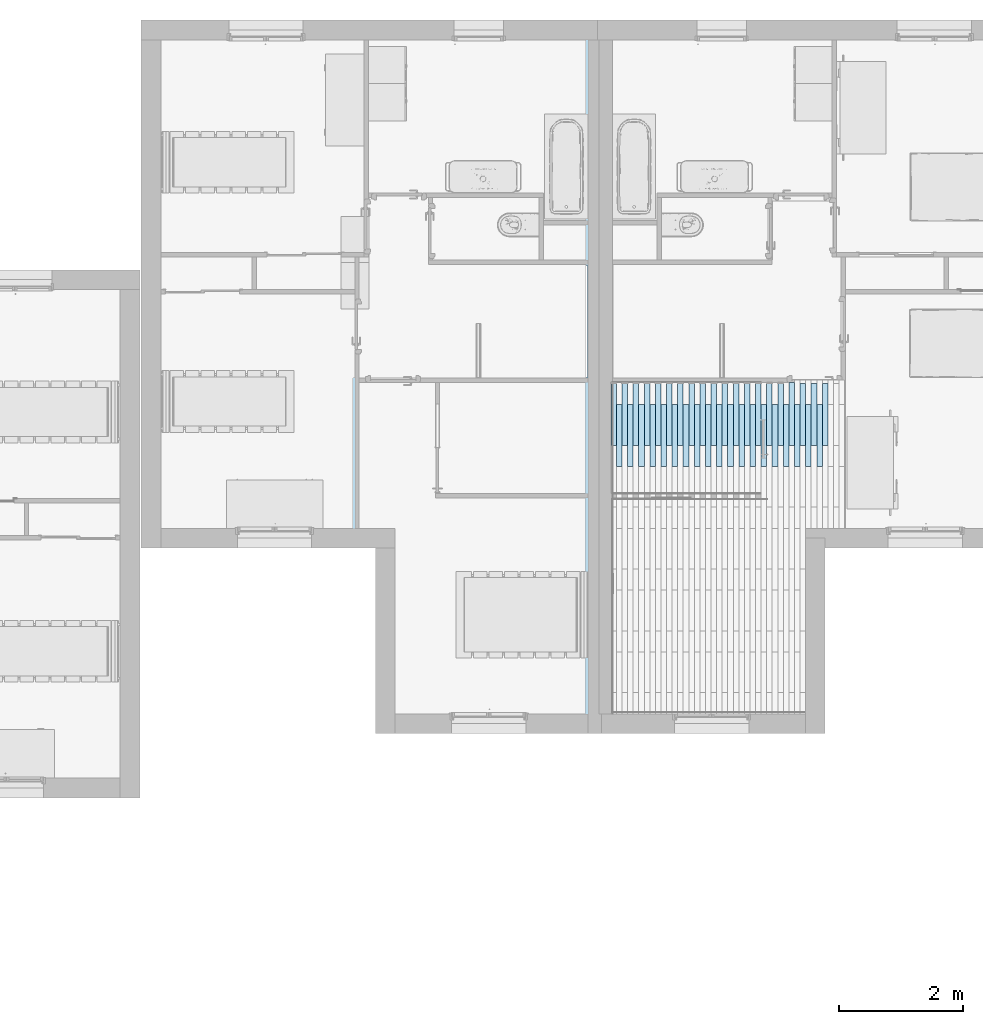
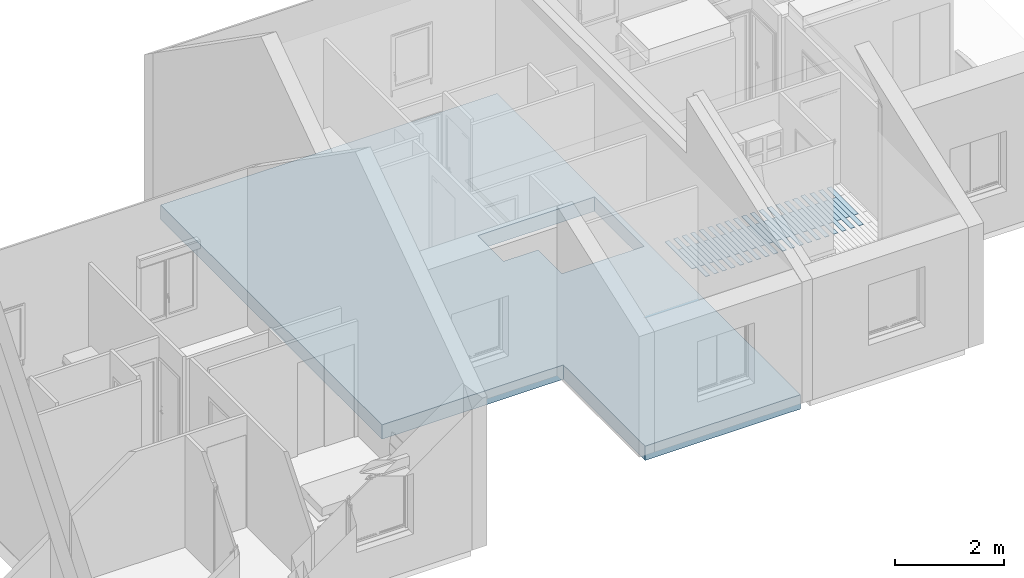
# One storey, part 4 of 61: 40 slabs, 1 opening.
"""IFC2X3 building model written with IfcOpenShell, lengths in metres."""

import ifcopenshell
import ifcopenshell.guid

model = None  # the IFC model being written
_history = None  # IfcOwnerHistory: only IFC2X3 demands one
_inside = {}  # id of a spatial element -> (the spatial element, [elements in it])
_under = {}  # id of a project, library or spatial element -> (it, [spatial elements below it])
_declared = {}  # id of a project -> (the project, [libraries it declares])
_typed = {}  # id of a type object -> (the type object, [elements of that type])
_made_of = {}  # id of a material, layer set ... -> (it, [elements and type objects made of it])


def new_model(schema):
    """Start an empty IFC model of exactly this schema.

    Asked for "IFC4X3", IfcOpenShell would pick the latest addendum, in which some entities
    have other attributes; the version numbers below select the first issue.
    IFC2X3 requires an IfcOwnerHistory on every rooted entity: one is made here for all.
    """
    global model, _history
    if schema == "IFC4X3":
        model = ifcopenshell.file(schema_version=(4, 3, 0, 0))
    else:
        model = ifcopenshell.file(schema=schema)
    _inside.clear()
    _under.clear()
    _declared.clear()
    _typed.clear()
    _made_of.clear()
    _history = None
    if model.schema == "IFC2X3":
        org = make("IfcOrganization", Name="unknown")
        user = make(
            "IfcPersonAndOrganization",
            ThePerson=make("IfcPerson", FamilyName="unknown"),
            TheOrganization=org,
        )
        app = make(
            "IfcApplication",
            ApplicationDeveloper=org,
            Version="unknown",
            ApplicationFullName="unknown",
            ApplicationIdentifier="unknown",
        )
        _history = make(
            "IfcOwnerHistory",
            OwningUser=user,
            OwningApplication=app,
            ChangeAction="ADDED",
            CreationDate=0,
        )
    return model


def make(cls, **values):
    """One entity of the class cls with the attributes given. An attribute that is None is left unset."""
    return model.create_entity(
        cls, **{name: value for name, value in values.items() if value is not None}
    )


def entity(cls, *values):
    """Any entity or typed value of the class cls, its attributes in the order of the schema. None: left unset."""
    e = model.create_entity(cls)
    for i, value in enumerate(values):
        if value is not None:
            e[i] = value
    return e


def rooted(cls, **values):
    """An entity with a GlobalId (a new one), such as an element, a storey or a relation."""
    return make(cls, GlobalId=ifcopenshell.guid.new(), OwnerHistory=_history, **values)


def si_unit(unit_type, name, prefix=None):
    """IfcSIUnit, for example si_unit("LENGTHUNIT", "METRE", prefix="MILLI")."""
    return make("IfcSIUnit", UnitType=unit_type, Prefix=prefix, Name=name)


def converted_unit(unit_type, name, factor, base, dimensions=None, offset=None):
    """IfcConversionBasedUnit, such as the inch: factor (a typed value) times the base unit."""
    return make(
        "IfcConversionBasedUnit"
        if offset is None
        else "IfcConversionBasedUnitWithOffset",
        ConversionOffset=offset,
        Dimensions=None
        if dimensions is None
        else entity("IfcDimensionalExponents", *dimensions),
        UnitType=unit_type,
        Name=name,
        ConversionFactor=make(
            "IfcMeasureWithUnit", ValueComponent=factor, UnitComponent=base
        ),
    )


def derived_unit(unit_type, elements):
    """IfcDerivedUnit: a product of units, each with its exponent."""
    return make(
        "IfcDerivedUnit",
        Elements=[
            make("IfcDerivedUnitElement", Unit=unit, Exponent=power)
            for unit, power in elements
        ],
        UnitType=unit_type,
    )


def assignment(units):
    """IfcUnitAssignment: the units of a project."""
    return None if units is None else make("IfcUnitAssignment", Units=units)


def point(xyz):
    """IfcCartesianPoint."""
    return None if xyz is None else make("IfcCartesianPoint", Coordinates=xyz)


def direction(xyz):
    """IfcDirection."""
    return None if xyz is None else make("IfcDirection", DirectionRatios=xyz)


def frame(location, z_axis=None, x_axis=None):
    """IfcAxis2Placement3D, a coordinate frame: its origin and axes. An axis left out is left unset."""
    return make(
        "IfcAxis2Placement3D",
        Location=point(location),
        Axis=direction(z_axis),
        RefDirection=direction(x_axis),
    )


def frame_2d(location, x_axis=None):
    """IfcAxis2Placement2D, a coordinate frame in the plane: its origin and x axis."""
    return make(
        "IfcAxis2Placement2D", Location=point(location), RefDirection=direction(x_axis)
    )


def origin():
    """The frame at (0, 0, 0) with its axes left unset."""
    return frame((0.0, 0.0, 0.0))


def place(relative_to, where):
    """IfcLocalPlacement: puts the frame where relative to a parent placement (None: the world)."""
    return make(
        "IfcLocalPlacement", PlacementRelTo=relative_to, RelativePlacement=where
    )


def context(
    kind, dimensions, precision=None, world=None, true_north=None, identifier=None
):
    """IfcGeometricRepresentationContext, for example the 3D "Model" context."""
    return make(
        "IfcGeometricRepresentationContext",
        ContextIdentifier=identifier,
        ContextType=kind,
        CoordinateSpaceDimension=dimensions,
        Precision=precision,
        WorldCoordinateSystem=world,
        TrueNorth=true_north,
    )


def subcontext(parent, identifier, kind, view, scale=None):
    """IfcGeometricRepresentationSubContext, for example "Body" below "Model"."""
    return make(
        "IfcGeometricRepresentationSubContext",
        ContextIdentifier=identifier,
        ContextType=kind,
        ParentContext=parent,
        TargetScale=scale,
        TargetView=view,
    )


def project(units=None, contexts=None):
    """IfcProject with its units and contexts."""
    return rooted(
        "IfcProject",
        Name="project",
        RepresentationContexts=contexts,
        UnitsInContext=assignment(units),
    )


def spatial(cls, under=None, at=None, **own):
    """A site, building, storey or space (cls), placed at a placement, below another one or the project."""
    s = rooted(cls, ObjectPlacement=at, **own)
    if under is not None:
        _under.setdefault(under.id(), (under, []))[1].append(s)
    return s


def polyline(points):
    """IfcPolyline through the points."""
    return make("IfcPolyline", Points=[point(p) for p in points])


def profile(cls, at=None, kind="AREA", **sizes):
    """A parametric profile (cls). Its sizes go by their IFC names, for example OverallWidth=200.0."""
    return make(cls, ProfileType=kind, Position=at, **sizes)


def rectangle(**sizes):
    """IfcRectangleProfileDef."""
    return profile("IfcRectangleProfileDef", **sizes)


def outline(outer, holes=None, kind="AREA"):
    """IfcArbitraryClosedProfileDef: a profile drawn as a closed curve; with holes, ...WithVoids."""
    if holes is None:
        return make("IfcArbitraryClosedProfileDef", ProfileType=kind, OuterCurve=outer)
    return make(
        "IfcArbitraryProfileDefWithVoids",
        ProfileType=kind,
        OuterCurve=outer,
        InnerCurves=holes,
    )


def extrude(swept, where, along, depth):
    """IfcExtrudedAreaSolid: the profile swept, set in the frame where, extruded along a direction by depth."""
    return make(
        "IfcExtrudedAreaSolid",
        SweptArea=swept,
        Position=where,
        ExtrudedDirection=direction(along),
        Depth=depth,
    )


def shape(context_of_items, identifier, shape_type, items):
    """IfcShapeRepresentation: the items that make up one representation, for example the "Body"."""
    return make(
        "IfcShapeRepresentation",
        ContextOfItems=context_of_items,
        RepresentationIdentifier=identifier,
        RepresentationType=shape_type,
        Items=items,
    )


def material(Name=None, Category=None):
    """IfcMaterial."""
    return make("IfcMaterial", Name=Name, Category=Category)


def layer(
    of_material, thickness, ventilated=None, Name=None, Category=None, Priority=None
):
    """IfcMaterialLayer: one layer of a wall or slab, of a material (None: an air gap)."""
    return make(
        "IfcMaterialLayer",
        Material=of_material,
        LayerThickness=thickness,
        IsVentilated=ventilated,
        Name=Name,
        Category=Category,
        Priority=Priority,
    )


def layer_set(layers, Name=None):
    """IfcMaterialLayerSet."""
    return make("IfcMaterialLayerSet", MaterialLayers=layers, LayerSetName=Name)


def layer_usage(for_layer_set, set_direction, sense, offset, extent=None):
    """IfcMaterialLayerSetUsage: how a layer set lies in its element."""
    return make(
        "IfcMaterialLayerSetUsage",
        ForLayerSet=for_layer_set,
        LayerSetDirection=set_direction,
        DirectionSense=sense,
        OffsetFromReferenceLine=offset,
        ReferenceExtent=extent,
    )


def made_of(thing, what):
    """Note that an element or type object is made of a material, layer set ...; save() writes the relation."""
    if what is not None:
        _made_of.setdefault(what.id(), (what, []))[1].append(thing)
    return thing


def type_object(cls, material=None, **own):
    """A type object (cls), such as IfcWallType, which elements share."""
    return made_of(rooted(cls, **own), material)


def element(
    cls,
    number,
    at=None,
    inside=None,
    cuts=None,
    type_object=None,
    material=None,
    context=None,
    identifier="Body",
    shape_type=None,
    held_by="IfcProductDefinitionShape",
    body=None,
    shapes=None,
    **own,
):
    """One element of the class cls, such as IfcWall. Its Tag is "e" and its number.

    at: its placement. inside: the storey or other place that contains it. cuts: it is an
    opening in that element (IfcRelVoidsElement). A single representation is given by context,
    identifier, shape_type and body (its items); several are given by shapes. held_by: the class
    of the entity that holds the representations. save() writes the other relations.
    """
    e = rooted(cls, Tag="e%d" % number, ObjectPlacement=at, **own)
    if body is not None:
        shapes = [shape(context, identifier, shape_type, body)]
    if shapes is not None:
        e.Representation = make(held_by, Representations=shapes)
    if inside is not None:
        _inside.setdefault(inside.id(), (inside, []))[1].append(e)
    if cuts is not None:
        rooted(
            "IfcRelVoidsElement", RelatingBuildingElement=cuts, RelatedOpeningElement=e
        )
    if type_object is not None:
        _typed.setdefault(type_object.id(), (type_object, []))[1].append(e)
    return made_of(e, material)


def aggregate(whole, parts):
    """IfcRelAggregates: a whole, such as a stair, and the parts it consists of."""
    return rooted("IfcRelAggregates", RelatingObject=whole, RelatedObjects=parts)


def save(model, path):
    """Write the relations noted so far, then the file.

    IfcRelAggregates (storeys below a building ...), IfcRelContainedInSpatialStructure (elements
    in a storey), IfcRelDefinesByType, IfcRelAssociatesMaterial and IfcRelDeclares: one each for
    every whole, place, type object, material and project.
    """
    for whole, parts in _under.values():
        aggregate(whole, parts)
    for where, things in _inside.values():
        rooted(
            "IfcRelContainedInSpatialStructure",
            RelatedElements=things,
            RelatingStructure=where,
        )
    for kind, things in _typed.values():
        rooted("IfcRelDefinesByType", RelatedObjects=things, RelatingType=kind)
    for what, things in _made_of.values():
        rooted("IfcRelAssociatesMaterial", RelatedObjects=things, RelatingMaterial=what)
    for by, libraries in _declared.values():
        rooted("IfcRelDeclares", RelatingContext=by, RelatedDefinitions=libraries)
    model.write(path)


model = new_model("IFC2X3")

# Units and contexts
model_context = context("Model", 3, precision=1e-05, world=origin(), true_north=direction((6.12303176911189e-17, 1.0)))
body_context = subcontext(model_context, "Body", "Model", "MODEL_VIEW")
ifc_project = project(units=[si_unit("LENGTHUNIT", "METRE"), si_unit("AREAUNIT", "SQUARE_METRE"), si_unit("VOLUMEUNIT", "CUBIC_METRE"), converted_unit("PLANEANGLEUNIT", "DEGREE", entity("IfcRatioMeasure", 0.0174532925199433), si_unit("PLANEANGLEUNIT", "RADIAN"), dimensions=[0, 0, 0, 0, 0, 0, 0]), si_unit("MASSUNIT", "GRAM", prefix="KILO"), derived_unit("MASSDENSITYUNIT", [(si_unit("MASSUNIT", "GRAM", prefix="KILO"), 1), (si_unit("LENGTHUNIT", "METRE"), -3)]), si_unit("TIMEUNIT", "SECOND"), si_unit("FREQUENCYUNIT", "HERTZ"), si_unit("THERMODYNAMICTEMPERATUREUNIT", "DEGREE_CELSIUS"), derived_unit("THERMALTRANSMITTANCEUNIT", [(si_unit("MASSUNIT", "GRAM", prefix="KILO"), 1), (si_unit("THERMODYNAMICTEMPERATUREUNIT", "KELVIN"), -1), (si_unit("TIMEUNIT", "SECOND"), -3)]), derived_unit("VOLUMETRICFLOWRATEUNIT", [(si_unit("LENGTHUNIT", "METRE"), 3), (si_unit("TIMEUNIT", "SECOND"), -1)]), si_unit("ELECTRICCURRENTUNIT", "AMPERE"), si_unit("ELECTRICVOLTAGEUNIT", "VOLT"), si_unit("POWERUNIT", "WATT"), si_unit("FORCEUNIT", "NEWTON", prefix="KILO"), si_unit("ILLUMINANCEUNIT", "LUX"), si_unit("LUMINOUSFLUXUNIT", "LUMEN"), si_unit("LUMINOUSINTENSITYUNIT", "CANDELA"), derived_unit("USERDEFINED", [(si_unit("MASSUNIT", "GRAM", prefix="KILO"), -1), (si_unit("LENGTHUNIT", "METRE"), -2), (si_unit("TIMEUNIT", "SECOND"), 3), (si_unit("LUMINOUSFLUXUNIT", "LUMEN"), 1)]), derived_unit("LINEARVELOCITYUNIT", [(si_unit("LENGTHUNIT", "METRE"), 1), (si_unit("TIMEUNIT", "SECOND"), -1)]), si_unit("PRESSUREUNIT", "PASCAL"), derived_unit("USERDEFINED", [(si_unit("LENGTHUNIT", "METRE"), -2), (si_unit("MASSUNIT", "GRAM", prefix="KILO"), 1), (si_unit("TIMEUNIT", "SECOND"), -2)])], contexts=[model_context])

# Site, building, storey
site_placement = place(None, origin())
site = spatial("IfcSite", under=ifc_project, at=site_placement, Name="Surface", CompositionType="ELEMENT")
building_placement = place(site_placement, origin())
building = spatial("IfcBuilding", under=site, at=building_placement, CompositionType="ELEMENT")
storey_placement = place(building_placement, frame((0.0, 0.0, 2.82)))
storey = spatial("IfcBuildingStorey", under=building, at=storey_placement, Name="ETAGE", CompositionType="ELEMENT", Elevation=2.82)

# Slab, opening
ifc_material_1 = material(Name="Béton")
ifc_layer_1 = layer(ifc_material_1, 0.2)
ifc_material_2 = material(Name="Isolant")
ifc_layer_2 = layer(ifc_material_2, 0.1)
ifc_material_3 = material(Name="Plastique - Blanc")
ifc_layer_3 = layer(ifc_material_3, 0.02)
ifc_layer_set_1 = layer_set([ifc_layer_1, ifc_layer_2, ifc_layer_3], Name="Sol:Dalle Béton - 20 cm  + FAUX PLAFOND")
ifc_layer_usage_1 = layer_usage(ifc_layer_set_1, "AXIS3", "POSITIVE", 0.0)
slab_type_1 = type_object("IfcSlabType", Name="Sol:Dalle Béton - 20 cm  + FAUX PLAFOND", PredefinedType="FLOOR", material=ifc_layer_set_1)
slab_1_placement = place(storey_placement, frame((76.5227560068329, 81.1575239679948, -0.3)))
slab_1 = element("IfcSlab", 1, at=slab_1_placement, inside=storey, type_object=slab_type_1, material=ifc_layer_usage_1, Name="Sol:Dalle Béton - 20 cm  + FAUX PLAFOND", ObjectType="Sol:Dalle Béton - 20 cm  + FAUX PLAFOND", PredefinedType="FLOOR", context=body_context, shape_type="SweptSolid", body=[
    extrude(outline(polyline([(3.55413147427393, 5.545), (-3.55413147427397, 5.545), (-3.55413147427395, -2.55499999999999), (0.274131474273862, -2.55499999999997), (0.274131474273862, -5.54499999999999), (3.55413147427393, -5.545), (3.55413147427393, 5.545)])), frame((3.55413147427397, 5.545, 0.32)), (0.0, 0.0, -1.0), 0.32),
])
opening_placement = place(storey_placement, frame((76.5227560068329, 81.1575239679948, -0.3)))
element("IfcOpeningElement", 2, at=opening_placement, cuts=slab_1, ObjectType="Opening", context=body_context, shape_type="SweptSolid", body=[
    extrude(outline(polyline([(-3.44496571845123, 1.7966805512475), (-3.44496571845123, -0.0199999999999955), (-1.70746571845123, -0.0199999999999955), (-1.70746571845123, 0.852480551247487), (-0.977465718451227, 0.852480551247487), (-0.977465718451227, 1.7966805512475), (-3.44496571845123, 1.7966805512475)])), frame((3.55413147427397, 5.545, 0.32), z_axis=(0.0, 0.0, -1.0), x_axis=(-1.0, 0.0, 0.0)), (0.0, 0.0, 1.0), 0.32),
])

# Slabs
ifc_material_4 = material(Name="PARQUET BAMBOU")
ifc_layer_4 = layer(ifc_material_4, 0.01)
ifc_layer_set_2 = layer_set([ifc_layer_4], Name="Sol:LAME DE BAMBOU")
ifc_layer_usage_2 = layer_usage(ifc_layer_set_2, "AXIS3", "POSITIVE", 0.0)
slab_type_2 = type_object("IfcSlabType", Name="Sol:LAME DE BAMBOU", PredefinedType="FLOOR", material=ifc_layer_set_2)
slab_2_placement = place(storey_placement, origin())
element("IfcSlab", 3, at=slab_2_placement, inside=storey, type_object=slab_type_2, material=ifc_layer_usage_2, Name="Sol:LAME DE BAMBOU", ObjectType="Sol:LAME DE BAMBOU", PredefinedType="FLOOR", context=body_context, shape_type="SweptSolid", body=[
    extrude(rectangle(XDim=0.999999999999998, YDim=0.0899999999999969, at=frame_2d((8.68749516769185e-15, 8.66320903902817e-15), x_axis=(1.0, 0.0))), frame((86.466089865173, 86.0875239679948, 0.05), z_axis=(0.0, 0.0, -1.0), x_axis=(0.0, 1.0, 0.0)), (0.0, 0.0, 1.0), 0.00999999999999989),
])
ifc_layer_usage_3 = layer_usage(ifc_layer_set_2, "AXIS3", "POSITIVE", 0.0)
slab_type_3 = type_object("IfcSlabType", Name="Sol:LAME DE BAMBOU", PredefinedType="FLOOR", material=ifc_layer_set_2)
slab_3_placement = place(storey_placement, origin())
element("IfcSlab", 4, at=slab_3_placement, inside=storey, type_object=slab_type_3, material=ifc_layer_usage_3, Name="Sol:LAME DE BAMBOU", ObjectType="Sol:LAME DE BAMBOU", PredefinedType="FLOOR", context=body_context, shape_type="SweptSolid", body=[
    extrude(rectangle(XDim=0.999999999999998, YDim=0.0899999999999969, at=frame_2d((8.68749516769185e-15, 8.66320903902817e-15), x_axis=(1.0, 0.0))), frame((86.556089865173, 85.7475239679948, 0.05), z_axis=(0.0, 0.0, -1.0), x_axis=(0.0, 1.0, 0.0)), (0.0, 0.0, 1.0), 0.00999999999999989),
])
ifc_layer_usage_4 = layer_usage(ifc_layer_set_2, "AXIS3", "POSITIVE", 0.0)
slab_type_4 = type_object("IfcSlabType", Name="Sol:LAME DE BAMBOU", PredefinedType="FLOOR", material=ifc_layer_set_2)
slab_4_placement = place(storey_placement, origin())
element("IfcSlab", 5, at=slab_4_placement, inside=storey, type_object=slab_type_4, material=ifc_layer_usage_4, Name="Sol:LAME DE BAMBOU", ObjectType="Sol:LAME DE BAMBOU", PredefinedType="FLOOR", context=body_context, shape_type="SweptSolid", body=[
    extrude(rectangle(XDim=0.999999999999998, YDim=0.0899999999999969, at=frame_2d((8.68749516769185e-15, 8.66320903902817e-15), x_axis=(1.0, 0.0))), frame((86.916089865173, 85.7475239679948, 0.05), z_axis=(0.0, 0.0, -1.0), x_axis=(0.0, 1.0, 0.0)), (0.0, 0.0, 1.0), 0.00999999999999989),
])
ifc_layer_usage_5 = layer_usage(ifc_layer_set_2, "AXIS3", "POSITIVE", 0.0)
slab_type_5 = type_object("IfcSlabType", Name="Sol:LAME DE BAMBOU", PredefinedType="FLOOR", material=ifc_layer_set_2)
slab_5_placement = place(storey_placement, origin())
element("IfcSlab", 6, at=slab_5_placement, inside=storey, type_object=slab_type_5, material=ifc_layer_usage_5, Name="Sol:LAME DE BAMBOU", ObjectType="Sol:LAME DE BAMBOU", PredefinedType="FLOOR", context=body_context, shape_type="SweptSolid", body=[
    extrude(rectangle(XDim=0.999999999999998, YDim=0.0899999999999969, at=frame_2d((8.68749516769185e-15, -8.66320903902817e-15), x_axis=(1.0, 0.0))), frame((86.736089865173, 85.7475239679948, 0.05), z_axis=(0.0, 0.0, -1.0), x_axis=(0.0, 1.0, 0.0)), (0.0, 0.0, 1.0), 0.00999999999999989),
])
ifc_layer_usage_6 = layer_usage(ifc_layer_set_2, "AXIS3", "POSITIVE", 0.0)
slab_type_6 = type_object("IfcSlabType", Name="Sol:LAME DE BAMBOU", PredefinedType="FLOOR", material=ifc_layer_set_2)
slab_6_placement = place(storey_placement, origin())
element("IfcSlab", 7, at=slab_6_placement, inside=storey, type_object=slab_type_6, material=ifc_layer_usage_6, Name="Sol:LAME DE BAMBOU", ObjectType="Sol:LAME DE BAMBOU", PredefinedType="FLOOR", context=body_context, shape_type="SweptSolid", body=[
    extrude(rectangle(XDim=0.999999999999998, YDim=0.0899999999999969, at=frame_2d((8.68749516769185e-15, 8.66320903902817e-15), x_axis=(1.0, 0.0))), frame((86.646089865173, 86.0875239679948, 0.05), z_axis=(0.0, 0.0, -1.0), x_axis=(0.0, 1.0, 0.0)), (0.0, 0.0, 1.0), 0.00999999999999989),
])
ifc_layer_usage_7 = layer_usage(ifc_layer_set_2, "AXIS3", "POSITIVE", 0.0)
slab_type_7 = type_object("IfcSlabType", Name="Sol:LAME DE BAMBOU", PredefinedType="FLOOR", material=ifc_layer_set_2)
slab_7_placement = place(storey_placement, origin())
element("IfcSlab", 8, at=slab_7_placement, inside=storey, type_object=slab_type_7, material=ifc_layer_usage_7, Name="Sol:LAME DE BAMBOU", ObjectType="Sol:LAME DE BAMBOU", PredefinedType="FLOOR", context=body_context, shape_type="SweptSolid", body=[
    extrude(rectangle(XDim=1.01999999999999, YDim=0.0899999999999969, at=frame_2d((8.65973959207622e-15, 8.66320903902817e-15), x_axis=(1.0, 0.0))), frame((86.826089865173, 86.0975239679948, 0.05), z_axis=(0.0, 0.0, -1.0), x_axis=(0.0, 1.0, 0.0)), (0.0, 0.0, 1.0), 0.00999999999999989),
])
ifc_layer_usage_8 = layer_usage(ifc_layer_set_2, "AXIS3", "POSITIVE", 0.0)
slab_type_8 = type_object("IfcSlabType", Name="Sol:LAME DE BAMBOU", PredefinedType="FLOOR", material=ifc_layer_set_2)
slab_8_placement = place(storey_placement, origin())
element("IfcSlab", 9, at=slab_8_placement, inside=storey, type_object=slab_type_8, material=ifc_layer_usage_8, Name="Sol:LAME DE BAMBOU", ObjectType="Sol:LAME DE BAMBOU", PredefinedType="FLOOR", context=body_context, shape_type="SweptSolid", body=[
    extrude(rectangle(XDim=0.999999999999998, YDim=0.0899999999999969, at=frame_2d((8.68749516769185e-15, 8.66320903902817e-15), x_axis=(1.0, 0.0))), frame((87.006089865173, 86.0875239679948, 0.05), z_axis=(0.0, 0.0, -1.0), x_axis=(0.0, 1.0, 0.0)), (0.0, 0.0, 1.0), 0.00999999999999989),
])
ifc_layer_usage_9 = layer_usage(ifc_layer_set_2, "AXIS3", "POSITIVE", 0.0)
slab_type_9 = type_object("IfcSlabType", Name="Sol:LAME DE BAMBOU", PredefinedType="FLOOR", material=ifc_layer_set_2)
slab_9_placement = place(storey_placement, origin())
element("IfcSlab", 10, at=slab_9_placement, inside=storey, type_object=slab_type_9, material=ifc_layer_usage_9, Name="Sol:LAME DE BAMBOU", ObjectType="Sol:LAME DE BAMBOU", PredefinedType="FLOOR", context=body_context, shape_type="SweptSolid", body=[
    extrude(rectangle(XDim=0.999999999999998, YDim=0.0899999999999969, at=frame_2d((8.68749516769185e-15, 8.66320903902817e-15), x_axis=(1.0, 0.0))), frame((87.0961607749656, 85.7475239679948, 0.05), z_axis=(0.0, 0.0, -1.0), x_axis=(0.0, 1.0, 0.0)), (0.0, 0.0, 1.0), 0.00999999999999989),
])
ifc_layer_usage_10 = layer_usage(ifc_layer_set_2, "AXIS3", "POSITIVE", 0.0)
slab_type_10 = type_object("IfcSlabType", Name="Sol:LAME DE BAMBOU", PredefinedType="FLOOR", material=ifc_layer_set_2)
slab_10_placement = place(storey_placement, origin())
element("IfcSlab", 11, at=slab_10_placement, inside=storey, type_object=slab_type_10, material=ifc_layer_usage_10, Name="Sol:LAME DE BAMBOU", ObjectType="Sol:LAME DE BAMBOU", PredefinedType="FLOOR", context=body_context, shape_type="SweptSolid", body=[
    extrude(rectangle(XDim=0.999999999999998, YDim=0.0899999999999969, at=frame_2d((8.68749516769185e-15, 8.66320903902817e-15), x_axis=(1.0, 0.0))), frame((87.1861607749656, 86.0875239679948, 0.05), z_axis=(0.0, 0.0, -1.0), x_axis=(0.0, 1.0, 0.0)), (0.0, 0.0, 1.0), 0.00999999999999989),
])
ifc_layer_usage_11 = layer_usage(ifc_layer_set_2, "AXIS3", "POSITIVE", 0.0)
slab_type_11 = type_object("IfcSlabType", Name="Sol:LAME DE BAMBOU", PredefinedType="FLOOR", material=ifc_layer_set_2)
slab_11_placement = place(storey_placement, origin())
element("IfcSlab", 12, at=slab_11_placement, inside=storey, type_object=slab_type_11, material=ifc_layer_usage_11, Name="Sol:LAME DE BAMBOU", ObjectType="Sol:LAME DE BAMBOU", PredefinedType="FLOOR", context=body_context, shape_type="SweptSolid", body=[
    extrude(rectangle(XDim=0.999999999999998, YDim=0.0899999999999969, at=frame_2d((8.68749516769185e-15, 8.66320903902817e-15), x_axis=(1.0, 0.0))), frame((87.2761607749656, 85.7475239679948, 0.05), z_axis=(0.0, 0.0, -1.0), x_axis=(0.0, 1.0, 0.0)), (0.0, 0.0, 1.0), 0.00999999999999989),
])
ifc_layer_usage_12 = layer_usage(ifc_layer_set_2, "AXIS3", "POSITIVE", 0.0)
slab_type_12 = type_object("IfcSlabType", Name="Sol:LAME DE BAMBOU", PredefinedType="FLOOR", material=ifc_layer_set_2)
slab_12_placement = place(storey_placement, origin())
element("IfcSlab", 13, at=slab_12_placement, inside=storey, type_object=slab_type_12, material=ifc_layer_usage_12, Name="Sol:LAME DE BAMBOU", ObjectType="Sol:LAME DE BAMBOU", PredefinedType="FLOOR", context=body_context, shape_type="SweptSolid", body=[
    extrude(rectangle(XDim=0.999999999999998, YDim=0.0899999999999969, at=frame_2d((8.68749516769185e-15, -8.66320903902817e-15), x_axis=(1.0, 0.0))), frame((87.3661607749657, 86.0875239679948, 0.05), z_axis=(0.0, 0.0, -1.0), x_axis=(0.0, 1.0, 0.0)), (0.0, 0.0, 1.0), 0.00999999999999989),
])
ifc_layer_usage_13 = layer_usage(ifc_layer_set_2, "AXIS3", "POSITIVE", 0.0)
slab_type_13 = type_object("IfcSlabType", Name="Sol:LAME DE BAMBOU", PredefinedType="FLOOR", material=ifc_layer_set_2)
slab_13_placement = place(storey_placement, origin())
element("IfcSlab", 14, at=slab_13_placement, inside=storey, type_object=slab_type_13, material=ifc_layer_usage_13, Name="Sol:LAME DE BAMBOU", ObjectType="Sol:LAME DE BAMBOU", PredefinedType="FLOOR", context=body_context, shape_type="SweptSolid", body=[
    extrude(rectangle(XDim=0.999999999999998, YDim=0.0899999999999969, at=frame_2d((8.68749516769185e-15, -8.66320903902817e-15), x_axis=(1.0, 0.0))), frame((86.376089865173, 85.7475239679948, 0.05), z_axis=(0.0, 0.0, -1.0), x_axis=(0.0, 1.0, 0.0)), (0.0, 0.0, 1.0), 0.00999999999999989),
])
ifc_layer_usage_14 = layer_usage(ifc_layer_set_2, "AXIS3", "POSITIVE", 0.0)
slab_type_14 = type_object("IfcSlabType", Name="Sol:LAME DE BAMBOU", PredefinedType="FLOOR", material=ifc_layer_set_2)
slab_14_placement = place(storey_placement, origin())
element("IfcSlab", 15, at=slab_14_placement, inside=storey, type_object=slab_type_14, material=ifc_layer_usage_14, Name="Sol:LAME DE BAMBOU", ObjectType="Sol:LAME DE BAMBOU", PredefinedType="FLOOR", context=body_context, shape_type="SweptSolid", body=[
    extrude(rectangle(XDim=0.999999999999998, YDim=0.0899999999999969, at=frame_2d((8.68749516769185e-15, 8.66320903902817e-15), x_axis=(1.0, 0.0))), frame((86.286089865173, 86.0875239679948, 0.05), z_axis=(0.0, 0.0, -1.0), x_axis=(0.0, 1.0, 0.0)), (0.0, 0.0, 1.0), 0.00999999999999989),
])
ifc_layer_usage_15 = layer_usage(ifc_layer_set_2, "AXIS3", "POSITIVE", 0.0)
slab_type_15 = type_object("IfcSlabType", Name="Sol:LAME DE BAMBOU", PredefinedType="FLOOR", material=ifc_layer_set_2)
slab_15_placement = place(storey_placement, origin())
element("IfcSlab", 16, at=slab_15_placement, inside=storey, type_object=slab_type_15, material=ifc_layer_usage_15, Name="Sol:LAME DE BAMBOU", ObjectType="Sol:LAME DE BAMBOU", PredefinedType="FLOOR", context=body_context, shape_type="SweptSolid", body=[
    extrude(rectangle(XDim=0.999999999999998, YDim=0.0899999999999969, at=frame_2d((8.68749516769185e-15, 8.66320903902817e-15), x_axis=(1.0, 0.0))), frame((86.1960898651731, 85.7475239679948, 0.05), z_axis=(0.0, 0.0, -1.0), x_axis=(0.0, 1.0, 0.0)), (0.0, 0.0, 1.0), 0.00999999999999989),
])
ifc_layer_usage_16 = layer_usage(ifc_layer_set_2, "AXIS3", "POSITIVE", 0.0)
slab_type_16 = type_object("IfcSlabType", Name="Sol:LAME DE BAMBOU", PredefinedType="FLOOR", material=ifc_layer_set_2)
slab_16_placement = place(storey_placement, origin())
element("IfcSlab", 17, at=slab_16_placement, inside=storey, type_object=slab_type_16, material=ifc_layer_usage_16, Name="Sol:LAME DE BAMBOU", ObjectType="Sol:LAME DE BAMBOU", PredefinedType="FLOOR", context=body_context, shape_type="SweptSolid", body=[
    extrude(rectangle(XDim=0.999999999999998, YDim=0.0899999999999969, at=frame_2d((8.68749516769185e-15, 8.66320903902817e-15), x_axis=(1.0, 0.0))), frame((86.106089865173, 86.0875239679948, 0.05), z_axis=(0.0, 0.0, -1.0), x_axis=(0.0, 1.0, 0.0)), (0.0, 0.0, 1.0), 0.00999999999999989),
])
ifc_layer_usage_17 = layer_usage(ifc_layer_set_2, "AXIS3", "POSITIVE", 0.0)
slab_type_17 = type_object("IfcSlabType", Name="Sol:LAME DE BAMBOU", PredefinedType="FLOOR", material=ifc_layer_set_2)
slab_17_placement = place(storey_placement, origin())
element("IfcSlab", 18, at=slab_17_placement, inside=storey, type_object=slab_type_17, material=ifc_layer_usage_17, Name="Sol:LAME DE BAMBOU", ObjectType="Sol:LAME DE BAMBOU", PredefinedType="FLOOR", context=body_context, shape_type="SweptSolid", body=[
    extrude(rectangle(XDim=0.999999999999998, YDim=0.0899999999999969, at=frame_2d((8.68749516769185e-15, 8.66320903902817e-15), x_axis=(1.0, 0.0))), frame((86.0160898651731, 85.7475239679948, 0.05), z_axis=(0.0, 0.0, -1.0), x_axis=(0.0, 1.0, 0.0)), (0.0, 0.0, 1.0), 0.00999999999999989),
])
ifc_layer_usage_18 = layer_usage(ifc_layer_set_2, "AXIS3", "POSITIVE", 0.0)
slab_type_18 = type_object("IfcSlabType", Name="Sol:LAME DE BAMBOU", PredefinedType="FLOOR", material=ifc_layer_set_2)
slab_18_placement = place(storey_placement, origin())
element("IfcSlab", 19, at=slab_18_placement, inside=storey, type_object=slab_type_18, material=ifc_layer_usage_18, Name="Sol:LAME DE BAMBOU", ObjectType="Sol:LAME DE BAMBOU", PredefinedType="FLOOR", context=body_context, shape_type="SweptSolid", body=[
    extrude(rectangle(XDim=0.999999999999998, YDim=0.0899999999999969, at=frame_2d((8.68749516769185e-15, 8.66320903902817e-15), x_axis=(1.0, 0.0))), frame((85.926089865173, 86.0875239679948, 0.05), z_axis=(0.0, 0.0, -1.0), x_axis=(0.0, 1.0, 0.0)), (0.0, 0.0, 1.0), 0.00999999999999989),
])
ifc_layer_usage_19 = layer_usage(ifc_layer_set_2, "AXIS3", "POSITIVE", 0.0)
slab_type_19 = type_object("IfcSlabType", Name="Sol:LAME DE BAMBOU", PredefinedType="FLOOR", material=ifc_layer_set_2)
slab_19_placement = place(storey_placement, origin())
element("IfcSlab", 20, at=slab_19_placement, inside=storey, type_object=slab_type_19, material=ifc_layer_usage_19, Name="Sol:LAME DE BAMBOU", ObjectType="Sol:LAME DE BAMBOU", PredefinedType="FLOOR", context=body_context, shape_type="SweptSolid", body=[
    extrude(rectangle(XDim=0.999999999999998, YDim=0.0899999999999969, at=frame_2d((8.68749516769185e-15, 8.66320903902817e-15), x_axis=(1.0, 0.0))), frame((85.8360898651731, 85.7475239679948, 0.05), z_axis=(0.0, 0.0, -1.0), x_axis=(0.0, 1.0, 0.0)), (0.0, 0.0, 1.0), 0.00999999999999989),
])
ifc_layer_usage_20 = layer_usage(ifc_layer_set_2, "AXIS3", "POSITIVE", 0.0)
slab_type_20 = type_object("IfcSlabType", Name="Sol:LAME DE BAMBOU", PredefinedType="FLOOR", material=ifc_layer_set_2)
slab_20_placement = place(storey_placement, origin())
element("IfcSlab", 21, at=slab_20_placement, inside=storey, type_object=slab_type_20, material=ifc_layer_usage_20, Name="Sol:LAME DE BAMBOU", ObjectType="Sol:LAME DE BAMBOU", PredefinedType="FLOOR", context=body_context, shape_type="SweptSolid", body=[
    extrude(rectangle(XDim=0.999999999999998, YDim=0.0899999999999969, at=frame_2d((8.68749516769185e-15, 8.66320903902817e-15), x_axis=(1.0, 0.0))), frame((85.746089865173, 86.0875239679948, 0.05), z_axis=(0.0, 0.0, -1.0), x_axis=(0.0, 1.0, 0.0)), (0.0, 0.0, 1.0), 0.00999999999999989),
])
ifc_layer_usage_21 = layer_usage(ifc_layer_set_2, "AXIS3", "POSITIVE", 0.0)
slab_type_21 = type_object("IfcSlabType", Name="Sol:LAME DE BAMBOU", PredefinedType="FLOOR", material=ifc_layer_set_2)
slab_21_placement = place(storey_placement, origin())
element("IfcSlab", 22, at=slab_21_placement, inside=storey, type_object=slab_type_21, material=ifc_layer_usage_21, Name="Sol:LAME DE BAMBOU", ObjectType="Sol:LAME DE BAMBOU", PredefinedType="FLOOR", context=body_context, shape_type="SweptSolid", body=[
    extrude(rectangle(XDim=0.999999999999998, YDim=0.0899999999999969, at=frame_2d((8.68749516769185e-15, 8.66320903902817e-15), x_axis=(1.0, 0.0))), frame((85.6560898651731, 85.7475239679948, 0.05), z_axis=(0.0, 0.0, -1.0), x_axis=(0.0, 1.0, 0.0)), (0.0, 0.0, 1.0), 0.00999999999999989),
])
ifc_layer_usage_22 = layer_usage(ifc_layer_set_2, "AXIS3", "POSITIVE", 0.0)
slab_type_22 = type_object("IfcSlabType", Name="Sol:LAME DE BAMBOU", PredefinedType="FLOOR", material=ifc_layer_set_2)
slab_22_placement = place(storey_placement, origin())
element("IfcSlab", 23, at=slab_22_placement, inside=storey, type_object=slab_type_22, material=ifc_layer_usage_22, Name="Sol:LAME DE BAMBOU", ObjectType="Sol:LAME DE BAMBOU", PredefinedType="FLOOR", context=body_context, shape_type="SweptSolid", body=[
    extrude(rectangle(XDim=0.999999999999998, YDim=0.0899999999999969, at=frame_2d((8.68749516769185e-15, 8.66320903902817e-15), x_axis=(1.0, 0.0))), frame((85.566089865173, 86.0875239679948, 0.05), z_axis=(0.0, 0.0, -1.0), x_axis=(0.0, 1.0, 0.0)), (0.0, 0.0, 1.0), 0.00999999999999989),
])
ifc_layer_usage_23 = layer_usage(ifc_layer_set_2, "AXIS3", "POSITIVE", 0.0)
slab_type_23 = type_object("IfcSlabType", Name="Sol:LAME DE BAMBOU", PredefinedType="FLOOR", material=ifc_layer_set_2)
slab_23_placement = place(storey_placement, origin())
element("IfcSlab", 24, at=slab_23_placement, inside=storey, type_object=slab_type_23, material=ifc_layer_usage_23, Name="Sol:LAME DE BAMBOU", ObjectType="Sol:LAME DE BAMBOU", PredefinedType="FLOOR", context=body_context, shape_type="SweptSolid", body=[
    extrude(rectangle(XDim=0.999999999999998, YDim=0.0899999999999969, at=frame_2d((8.68749516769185e-15, 8.66320903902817e-15), x_axis=(1.0, 0.0))), frame((85.4760898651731, 85.7475239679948, 0.05), z_axis=(0.0, 0.0, -1.0), x_axis=(0.0, 1.0, 0.0)), (0.0, 0.0, 1.0), 0.00999999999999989),
])
ifc_layer_usage_24 = layer_usage(ifc_layer_set_2, "AXIS3", "POSITIVE", 0.0)
slab_type_24 = type_object("IfcSlabType", Name="Sol:LAME DE BAMBOU", PredefinedType="FLOOR", material=ifc_layer_set_2)
slab_24_placement = place(storey_placement, origin())
element("IfcSlab", 25, at=slab_24_placement, inside=storey, type_object=slab_type_24, material=ifc_layer_usage_24, Name="Sol:LAME DE BAMBOU", ObjectType="Sol:LAME DE BAMBOU", PredefinedType="FLOOR", context=body_context, shape_type="SweptSolid", body=[
    extrude(rectangle(XDim=0.999999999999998, YDim=0.0899999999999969, at=frame_2d((8.68749516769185e-15, 8.66320903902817e-15), x_axis=(1.0, 0.0))), frame((85.386089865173, 86.0875239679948, 0.05), z_axis=(0.0, 0.0, -1.0), x_axis=(0.0, 1.0, 0.0)), (0.0, 0.0, 1.0), 0.00999999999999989),
])
ifc_layer_usage_25 = layer_usage(ifc_layer_set_2, "AXIS3", "POSITIVE", 0.0)
slab_type_25 = type_object("IfcSlabType", Name="Sol:LAME DE BAMBOU", PredefinedType="FLOOR", material=ifc_layer_set_2)
slab_25_placement = place(storey_placement, origin())
element("IfcSlab", 26, at=slab_25_placement, inside=storey, type_object=slab_type_25, material=ifc_layer_usage_25, Name="Sol:LAME DE BAMBOU", ObjectType="Sol:LAME DE BAMBOU", PredefinedType="FLOOR", context=body_context, shape_type="SweptSolid", body=[
    extrude(rectangle(XDim=0.999999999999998, YDim=0.0899999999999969, at=frame_2d((8.68749516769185e-15, 8.66320903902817e-15), x_axis=(1.0, 0.0))), frame((85.2960898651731, 85.7475239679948, 0.05), z_axis=(0.0, 0.0, -1.0), x_axis=(0.0, 1.0, 0.0)), (0.0, 0.0, 1.0), 0.00999999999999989),
])
ifc_layer_usage_26 = layer_usage(ifc_layer_set_2, "AXIS3", "POSITIVE", 0.0)
slab_type_26 = type_object("IfcSlabType", Name="Sol:LAME DE BAMBOU", PredefinedType="FLOOR", material=ifc_layer_set_2)
slab_26_placement = place(storey_placement, origin())
element("IfcSlab", 27, at=slab_26_placement, inside=storey, type_object=slab_type_26, material=ifc_layer_usage_26, Name="Sol:LAME DE BAMBOU", ObjectType="Sol:LAME DE BAMBOU", PredefinedType="FLOOR", context=body_context, shape_type="SweptSolid", body=[
    extrude(rectangle(XDim=0.999999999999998, YDim=0.0899999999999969, at=frame_2d((8.68749516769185e-15, 8.66320903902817e-15), x_axis=(1.0, 0.0))), frame((85.206089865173, 86.0875239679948, 0.05), z_axis=(0.0, 0.0, -1.0), x_axis=(0.0, 1.0, 0.0)), (0.0, 0.0, 1.0), 0.00999999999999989),
])
ifc_layer_usage_27 = layer_usage(ifc_layer_set_2, "AXIS3", "POSITIVE", 0.0)
slab_type_27 = type_object("IfcSlabType", Name="Sol:LAME DE BAMBOU", PredefinedType="FLOOR", material=ifc_layer_set_2)
slab_27_placement = place(storey_placement, origin())
element("IfcSlab", 28, at=slab_27_placement, inside=storey, type_object=slab_type_27, material=ifc_layer_usage_27, Name="Sol:LAME DE BAMBOU", ObjectType="Sol:LAME DE BAMBOU", PredefinedType="FLOOR", context=body_context, shape_type="SweptSolid", body=[
    extrude(rectangle(XDim=0.999999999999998, YDim=0.0899999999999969, at=frame_2d((8.68749516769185e-15, 8.66320903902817e-15), x_axis=(1.0, 0.0))), frame((85.1160898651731, 85.7475239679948, 0.05), z_axis=(0.0, 0.0, -1.0), x_axis=(0.0, 1.0, 0.0)), (0.0, 0.0, 1.0), 0.00999999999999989),
])
ifc_layer_usage_28 = layer_usage(ifc_layer_set_2, "AXIS3", "POSITIVE", 0.0)
slab_type_28 = type_object("IfcSlabType", Name="Sol:LAME DE BAMBOU", PredefinedType="FLOOR", material=ifc_layer_set_2)
slab_28_placement = place(storey_placement, origin())
element("IfcSlab", 29, at=slab_28_placement, inside=storey, type_object=slab_type_28, material=ifc_layer_usage_28, Name="Sol:LAME DE BAMBOU", ObjectType="Sol:LAME DE BAMBOU", PredefinedType="FLOOR", context=body_context, shape_type="SweptSolid", body=[
    extrude(rectangle(XDim=0.999999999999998, YDim=0.0899999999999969, at=frame_2d((8.68749516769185e-15, 8.66320903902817e-15), x_axis=(1.0, 0.0))), frame((85.0260898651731, 86.0875239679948, 0.05), z_axis=(0.0, 0.0, -1.0), x_axis=(0.0, 1.0, 0.0)), (0.0, 0.0, 1.0), 0.00999999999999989),
])
ifc_layer_usage_29 = layer_usage(ifc_layer_set_2, "AXIS3", "POSITIVE", 0.0)
slab_type_29 = type_object("IfcSlabType", Name="Sol:LAME DE BAMBOU", PredefinedType="FLOOR", material=ifc_layer_set_2)
slab_29_placement = place(storey_placement, origin())
element("IfcSlab", 30, at=slab_29_placement, inside=storey, type_object=slab_type_29, material=ifc_layer_usage_29, Name="Sol:LAME DE BAMBOU", ObjectType="Sol:LAME DE BAMBOU", PredefinedType="FLOOR", context=body_context, shape_type="SweptSolid", body=[
    extrude(rectangle(XDim=0.999999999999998, YDim=0.0899999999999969, at=frame_2d((8.68749516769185e-15, 8.66320903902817e-15), x_axis=(1.0, 0.0))), frame((84.9360898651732, 85.7475239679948, 0.05), z_axis=(0.0, 0.0, -1.0), x_axis=(0.0, 1.0, 0.0)), (0.0, 0.0, 1.0), 0.00999999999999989),
])
ifc_layer_usage_30 = layer_usage(ifc_layer_set_2, "AXIS3", "POSITIVE", 0.0)
slab_type_30 = type_object("IfcSlabType", Name="Sol:LAME DE BAMBOU", PredefinedType="FLOOR", material=ifc_layer_set_2)
slab_30_placement = place(storey_placement, origin())
element("IfcSlab", 31, at=slab_30_placement, inside=storey, type_object=slab_type_30, material=ifc_layer_usage_30, Name="Sol:LAME DE BAMBOU", ObjectType="Sol:LAME DE BAMBOU", PredefinedType="FLOOR", context=body_context, shape_type="SweptSolid", body=[
    extrude(rectangle(XDim=0.999999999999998, YDim=0.0899999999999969, at=frame_2d((8.68749516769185e-15, -8.66320903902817e-15), x_axis=(1.0, 0.0))), frame((84.8460898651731, 86.0875239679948, 0.05), z_axis=(0.0, 0.0, -1.0), x_axis=(0.0, 1.0, 0.0)), (0.0, 0.0, 1.0), 0.00999999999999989),
])
ifc_layer_usage_31 = layer_usage(ifc_layer_set_2, "AXIS3", "POSITIVE", 0.0)
slab_type_31 = type_object("IfcSlabType", Name="Sol:LAME DE BAMBOU", PredefinedType="FLOOR", material=ifc_layer_set_2)
slab_31_placement = place(storey_placement, origin())
element("IfcSlab", 32, at=slab_31_placement, inside=storey, type_object=slab_type_31, material=ifc_layer_usage_31, Name="Sol:LAME DE BAMBOU", ObjectType="Sol:LAME DE BAMBOU", PredefinedType="FLOOR", context=body_context, shape_type="SweptSolid", body=[
    extrude(rectangle(XDim=0.999999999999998, YDim=0.0899999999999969, at=frame_2d((8.68749516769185e-15, -8.66320903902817e-15), x_axis=(1.0, 0.0))), frame((84.7560898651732, 85.7475239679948, 0.05), z_axis=(0.0, 0.0, -1.0), x_axis=(0.0, 1.0, 0.0)), (0.0, 0.0, 1.0), 0.00999999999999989),
])
ifc_layer_usage_32 = layer_usage(ifc_layer_set_2, "AXIS3", "POSITIVE", 0.0)
slab_type_32 = type_object("IfcSlabType", Name="Sol:LAME DE BAMBOU", PredefinedType="FLOOR", material=ifc_layer_set_2)
slab_32_placement = place(storey_placement, origin())
element("IfcSlab", 33, at=slab_32_placement, inside=storey, type_object=slab_type_32, material=ifc_layer_usage_32, Name="Sol:LAME DE BAMBOU", ObjectType="Sol:LAME DE BAMBOU", PredefinedType="FLOOR", context=body_context, shape_type="SweptSolid", body=[
    extrude(rectangle(XDim=0.999999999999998, YDim=0.0899999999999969, at=frame_2d((8.68749516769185e-15, 8.66320903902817e-15), x_axis=(1.0, 0.0))), frame((84.6660898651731, 86.0875239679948, 0.05), z_axis=(0.0, 0.0, -1.0), x_axis=(0.0, 1.0, 0.0)), (0.0, 0.0, 1.0), 0.00999999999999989),
])
ifc_layer_usage_33 = layer_usage(ifc_layer_set_2, "AXIS3", "POSITIVE", 0.0)
slab_type_33 = type_object("IfcSlabType", Name="Sol:LAME DE BAMBOU", PredefinedType="FLOOR", material=ifc_layer_set_2)
slab_33_placement = place(storey_placement, origin())
element("IfcSlab", 34, at=slab_33_placement, inside=storey, type_object=slab_type_33, material=ifc_layer_usage_33, Name="Sol:LAME DE BAMBOU", ObjectType="Sol:LAME DE BAMBOU", PredefinedType="FLOOR", context=body_context, shape_type="SweptSolid", body=[
    extrude(rectangle(XDim=0.999999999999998, YDim=0.0899999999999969, at=frame_2d((8.68749516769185e-15, 8.66320903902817e-15), x_axis=(1.0, 0.0))), frame((84.5760898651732, 85.7475239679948, 0.05), z_axis=(0.0, 0.0, -1.0), x_axis=(0.0, 1.0, 0.0)), (0.0, 0.0, 1.0), 0.00999999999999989),
])
ifc_layer_usage_34 = layer_usage(ifc_layer_set_2, "AXIS3", "POSITIVE", 0.0)
slab_type_34 = type_object("IfcSlabType", Name="Sol:LAME DE BAMBOU", PredefinedType="FLOOR", material=ifc_layer_set_2)
slab_34_placement = place(storey_placement, origin())
element("IfcSlab", 35, at=slab_34_placement, inside=storey, type_object=slab_type_34, material=ifc_layer_usage_34, Name="Sol:LAME DE BAMBOU", ObjectType="Sol:LAME DE BAMBOU", PredefinedType="FLOOR", context=body_context, shape_type="SweptSolid", body=[
    extrude(rectangle(XDim=0.999999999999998, YDim=0.0899999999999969, at=frame_2d((8.68749516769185e-15, -8.66320903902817e-15), x_axis=(1.0, 0.0))), frame((84.4860898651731, 86.0875239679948, 0.05), z_axis=(0.0, 0.0, -1.0), x_axis=(0.0, 1.0, 0.0)), (0.0, 0.0, 1.0), 0.00999999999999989),
])
ifc_layer_usage_35 = layer_usage(ifc_layer_set_2, "AXIS3", "POSITIVE", 0.0)
slab_type_35 = type_object("IfcSlabType", Name="Sol:LAME DE BAMBOU", PredefinedType="FLOOR", material=ifc_layer_set_2)
slab_35_placement = place(storey_placement, origin())
element("IfcSlab", 36, at=slab_35_placement, inside=storey, type_object=slab_type_35, material=ifc_layer_usage_35, Name="Sol:LAME DE BAMBOU", ObjectType="Sol:LAME DE BAMBOU", PredefinedType="FLOOR", context=body_context, shape_type="SweptSolid", body=[
    extrude(rectangle(XDim=0.999999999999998, YDim=0.0899999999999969, at=frame_2d((8.68749516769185e-15, -8.66320903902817e-15), x_axis=(1.0, 0.0))), frame((84.3960898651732, 85.7475239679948, 0.05), z_axis=(0.0, 0.0, -1.0), x_axis=(0.0, 1.0, 0.0)), (0.0, 0.0, 1.0), 0.00999999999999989),
])
ifc_layer_usage_36 = layer_usage(ifc_layer_set_2, "AXIS3", "POSITIVE", 0.0)
slab_type_36 = type_object("IfcSlabType", Name="Sol:LAME DE BAMBOU", PredefinedType="FLOOR", material=ifc_layer_set_2)
slab_36_placement = place(storey_placement, origin())
element("IfcSlab", 37, at=slab_36_placement, inside=storey, type_object=slab_type_36, material=ifc_layer_usage_36, Name="Sol:LAME DE BAMBOU", ObjectType="Sol:LAME DE BAMBOU", PredefinedType="FLOOR", context=body_context, shape_type="SweptSolid", body=[
    extrude(rectangle(XDim=0.999999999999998, YDim=0.0899999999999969, at=frame_2d((8.68749516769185e-15, 8.66320903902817e-15), x_axis=(1.0, 0.0))), frame((84.3060898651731, 86.0875239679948, 0.05), z_axis=(0.0, 0.0, -1.0), x_axis=(0.0, 1.0, 0.0)), (0.0, 0.0, 1.0), 0.00999999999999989),
])
ifc_layer_usage_37 = layer_usage(ifc_layer_set_2, "AXIS3", "POSITIVE", 0.0)
slab_type_37 = type_object("IfcSlabType", Name="Sol:LAME DE BAMBOU", PredefinedType="FLOOR", material=ifc_layer_set_2)
slab_37_placement = place(storey_placement, origin())
element("IfcSlab", 38, at=slab_37_placement, inside=storey, type_object=slab_type_37, material=ifc_layer_usage_37, Name="Sol:LAME DE BAMBOU", ObjectType="Sol:LAME DE BAMBOU", PredefinedType="FLOOR", context=body_context, shape_type="SweptSolid", body=[
    extrude(rectangle(XDim=0.999999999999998, YDim=0.0899999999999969, at=frame_2d((8.68749516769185e-15, 8.66320903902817e-15), x_axis=(1.0, 0.0))), frame((84.2160898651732, 85.7475239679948, 0.05), z_axis=(0.0, 0.0, -1.0), x_axis=(0.0, 1.0, 0.0)), (0.0, 0.0, 1.0), 0.00999999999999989),
])
ifc_layer_usage_38 = layer_usage(ifc_layer_set_2, "AXIS3", "POSITIVE", 0.0)
slab_type_38 = type_object("IfcSlabType", Name="Sol:LAME DE BAMBOU", PredefinedType="FLOOR", material=ifc_layer_set_2)
slab_38_placement = place(storey_placement, origin())
element("IfcSlab", 39, at=slab_38_placement, inside=storey, type_object=slab_type_38, material=ifc_layer_usage_38, Name="Sol:LAME DE BAMBOU", ObjectType="Sol:LAME DE BAMBOU", PredefinedType="FLOOR", context=body_context, shape_type="SweptSolid", body=[
    extrude(rectangle(XDim=0.999999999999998, YDim=0.0899999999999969, at=frame_2d((8.68749516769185e-15, -8.66320903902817e-15), x_axis=(1.0, 0.0))), frame((84.1260898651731, 86.0875239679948, 0.05), z_axis=(0.0, 0.0, -1.0), x_axis=(0.0, 1.0, 0.0)), (0.0, 0.0, 1.0), 0.00999999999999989),
])
ifc_layer_usage_39 = layer_usage(ifc_layer_set_2, "AXIS3", "POSITIVE", 0.0)
slab_type_39 = type_object("IfcSlabType", Name="Sol:LAME DE BAMBOU", PredefinedType="FLOOR", material=ifc_layer_set_2)
slab_39_placement = place(storey_placement, origin())
element("IfcSlab", 40, at=slab_39_placement, inside=storey, type_object=slab_type_39, material=ifc_layer_usage_39, Name="Sol:LAME DE BAMBOU", ObjectType="Sol:LAME DE BAMBOU", PredefinedType="FLOOR", context=body_context, shape_type="SweptSolid", body=[
    extrude(rectangle(XDim=0.999999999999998, YDim=0.0899999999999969, at=frame_2d((8.68749516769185e-15, -8.66320903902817e-15), x_axis=(1.0, 0.0))), frame((84.0360898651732, 85.7475239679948, 0.05), z_axis=(0.0, 0.0, -1.0), x_axis=(0.0, 1.0, 0.0)), (0.0, 0.0, 1.0), 0.00999999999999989),
])
ifc_layer_usage_40 = layer_usage(ifc_layer_set_2, "AXIS3", "POSITIVE", 0.0)
slab_type_40 = type_object("IfcSlabType", Name="Sol:LAME DE BAMBOU", PredefinedType="FLOOR", material=ifc_layer_set_2)
slab_40_placement = place(storey_placement, origin())
element("IfcSlab", 41, at=slab_40_placement, inside=storey, type_object=slab_type_40, material=ifc_layer_usage_40, Name="Sol:LAME DE BAMBOU", ObjectType="Sol:LAME DE BAMBOU", PredefinedType="FLOOR", context=body_context, shape_type="SweptSolid", body=[
    extrude(rectangle(XDim=0.999999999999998, YDim=0.0899999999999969, at=frame_2d((8.68749516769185e-15, 8.66320903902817e-15), x_axis=(1.0, 0.0))), frame((83.9460898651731, 86.0875239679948, 0.05), z_axis=(0.0, 0.0, -1.0), x_axis=(0.0, 1.0, 0.0)), (0.0, 0.0, 1.0), 0.00999999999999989),
])

save(model, "model.ifc")
